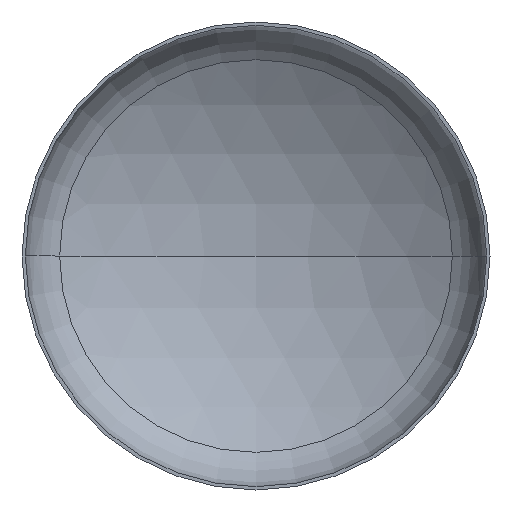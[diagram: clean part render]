
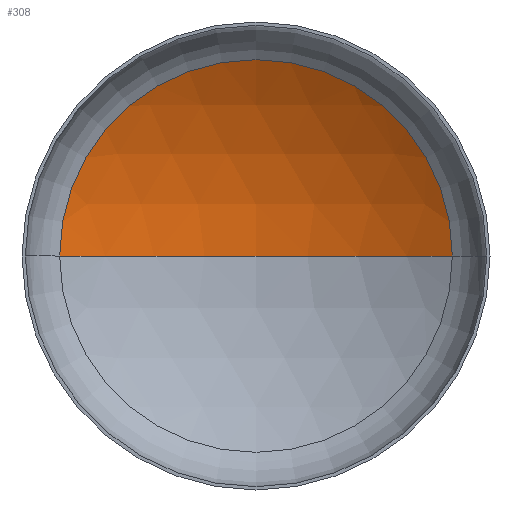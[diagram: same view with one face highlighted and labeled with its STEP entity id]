
A CAD part, front view. The second image highlights one B-rep face of the part: STEP entity #308.
In plain terms, the highlighted spherical face has radius 4800 mm.
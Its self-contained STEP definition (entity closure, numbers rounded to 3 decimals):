
#1 = VERTEX_POINT ( 'NONE', #159 ) ;
#20 = CARTESIAN_POINT ( 'NONE',  ( 0., 917.619, 0. ) ) ;
#31 = ORIENTED_EDGE ( 'NONE', *, *, #270, .T. ) ;
#35 = DIRECTION ( 'NONE',  ( 1., 0., 0. ) ) ;
#36 = CIRCLE ( 'NONE', #96, 4800. ) ;
#42 = ORIENTED_EDGE ( 'NONE', *, *, #271, .T. ) ;
#44 = DIRECTION ( 'NONE',  ( -1., 0., 0. ) ) ;
#47 = AXIS2_PLACEMENT_3D ( 'NONE', #223, #338, #258 ) ;
#73 = VERTEX_POINT ( 'NONE', #189 ) ;
#96 = AXIS2_PLACEMENT_3D ( 'NONE', #255, #410, #283 ) ;
#100 = EDGE_LOOP ( 'NONE', ( #131, #42, #31 ) ) ;
#108 = AXIS2_PLACEMENT_3D ( 'NONE', #213, #386, #44 ) ;
#110 = AXIS2_PLACEMENT_3D ( 'NONE', #20, #278, #35 ) ;
#121 = FACE_OUTER_BOUND ( 'NONE', #100, .T. ) ;
#131 = ORIENTED_EDGE ( 'NONE', *, *, #273, .F. ) ;
#147 = CARTESIAN_POINT ( 'NONE',  ( -2517.058, 917.619, 0. ) ) ;
#155 = VERTEX_POINT ( 'NONE', #147 ) ;
#159 = CARTESIAN_POINT ( 'NONE',  ( 0., 1630.515, 0. ) ) ;
#189 = CARTESIAN_POINT ( 'NONE',  ( 2517.058, 917.619, 0. ) ) ;
#213 = CARTESIAN_POINT ( 'NONE',  ( 0., -3169.485, 0. ) ) ;
#223 = CARTESIAN_POINT ( 'NONE',  ( 0., -3169.485, 0. ) ) ;
#255 = CARTESIAN_POINT ( 'NONE',  ( 0., -3169.485, 0. ) ) ;
#258 = DIRECTION ( 'NONE',  ( -1., 0., 0. ) ) ;
#259 = CIRCLE ( 'NONE', #108, 4800. ) ;
#270 = EDGE_CURVE ( 'NONE', #73, #155, #318, .T. ) ;
#271 = EDGE_CURVE ( 'NONE', #1, #73, #259, .T. ) ;
#273 = EDGE_CURVE ( 'NONE', #1, #155, #36, .T. ) ;
#278 = DIRECTION ( 'NONE',  ( 0., -1., 0. ) ) ;
#283 = DIRECTION ( 'NONE',  ( 1., 0., 0. ) ) ;
#308 = ADVANCED_FACE ( 'NONE', ( #121 ), #311, .F. ) ;
#311 = SPHERICAL_SURFACE ( 'NONE', #47, 4800. ) ;
#318 = CIRCLE ( 'NONE', #110, 2517.058 ) ;
#338 = DIRECTION ( 'NONE',  ( 0., 0., -1. ) ) ;
#386 = DIRECTION ( 'NONE',  ( 0., 0., -1. ) ) ;
#410 = DIRECTION ( 'NONE',  ( 0., 0., 1. ) ) ;
